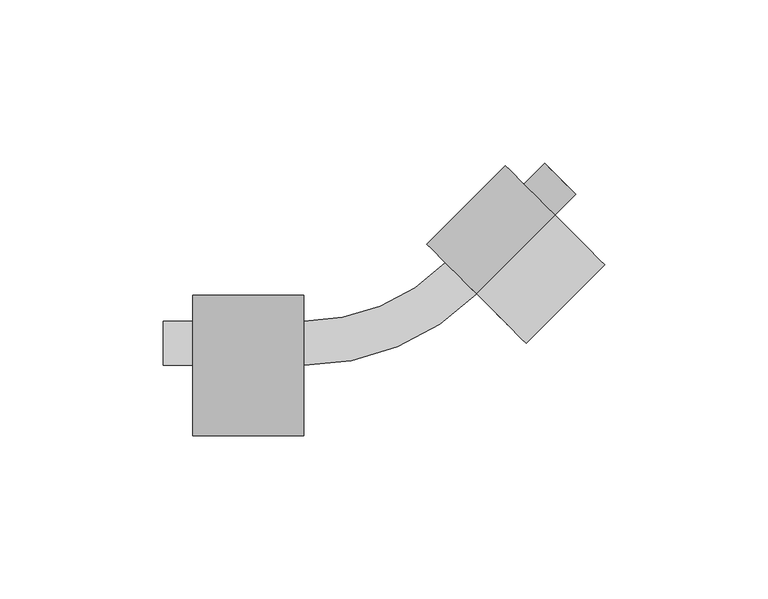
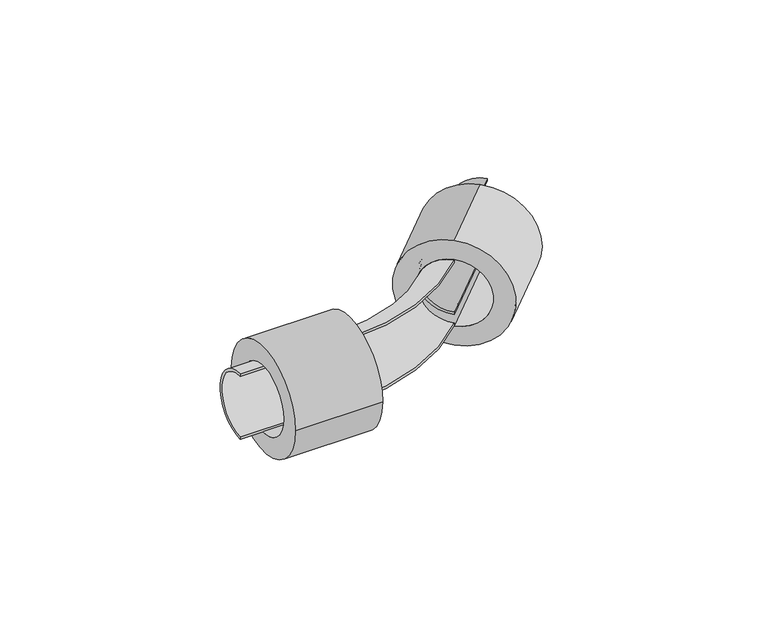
"""IFC4 building model written with IfcOpenShell, lengths in millimetres: pipe fitting geometry, REHAU_RAUTITAN_Pipe bend former sanitary : REHAU_RAUTITAN_Pipe bend former sanitary."""

from ifc_helpers import new_model, si_unit, point, frame, frame_2d, origin, origin_2d, place, context, project, spatial, polyline, circle_curve, ellipse_curve, trimmed, segment, composite_curve, outline, extrude, source, transform, mapped, element, save
from ifc_brep_helpers import plane_surface, cylinder_surface, revolved_surface, advanced_brep


def pipe_fitting_8df0c726(model_context):
    return source(origin(), model_context, "Body", "SolidModel", [
        advanced_brep(
        [(-31.0, 0.0, 13.5), (-31.0, 0.0, -13.5), (-31.0, 0.0, -12.5), (-31.0, 0.0, 12.5), (21.9203102, 21.9203102, 13.5), (21.9203102, 21.9203102, 12.5), (21.9203102, 21.9203102, -12.5), (21.9203102, 21.9203102, -13.5)],
        [
            (0, 1, circle_curve(frame((-31.0, 0.0, 0.0), z_axis=(-1.0, 0.0, 0.0), x_axis=(0.0, 1.0, 0.0)), 13.5)),
            (1, 2),
            (2, 3, circle_curve(frame((-31.0, 0.0, 0.0), z_axis=(1.0, 0.0, 0.0), x_axis=(0.0, 1.0, 0.0)), 12.5)),
            (3, 0),
            (4, 5),
            (5, 6, circle_curve(frame((21.9203102, 21.9203102, 0.0), z_axis=(-0.7071067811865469, -0.7071067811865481, 0.0), x_axis=(-0.7071067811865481, 0.7071067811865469, 0.0)), 12.5)),
            (6, 7),
            (7, 4, circle_curve(frame((21.9203102, 21.9203102, 0.0), z_axis=(0.7071067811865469, 0.7071067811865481, 0.0), x_axis=(-0.7071067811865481, 0.7071067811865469, 0.0)), 13.5)),
            (4, 0, circle_curve(frame((-31.0, 74.8406204, 13.5), z_axis=(0.0, 0.0, -1.0), x_axis=(0.0, -1.0, 0.0)), 74.8406204)),
            (3, 5, circle_curve(frame((-31.0, 74.8406204, 12.5), z_axis=(0.0, 0.0, 1.0), x_axis=(0.0, -1.0, 0.0)), 74.8406204)),
            (6, 2, circle_curve(frame((-31.0, 74.8406204, -12.5), z_axis=(0.0, 0.0, -1.0), x_axis=(0.0, -1.0, 0.0)), 74.8406204)),
            (1, 7, circle_curve(frame((-31.0, 74.8406204, -13.5), z_axis=(0.0, 0.0, 1.0), x_axis=(0.0, -1.0, 0.0)), 74.8406204)),
        ],
        [
            plane_surface(frame((-31.0, 0.0, 0.0), z_axis=(-1.0, 0.0, 0.0), x_axis=(0.0, 0.0, 1.0))),
            plane_surface(frame((21.9203102, 21.9203102, 0.0), z_axis=(0.7071067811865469, 0.7071067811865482, 0.0), x_axis=(0.0, 0.0, 1.0))),
            cylinder_surface(frame((-31.0, 74.8406204, 0.0), z_axis=(0.0, 0.0, 1.0), x_axis=(0.0, -1.0, 0.0)), 74.8406204),
            revolved_surface(trimmed(ellipse_curve(frame((-31.0, 0.0, 0.0), z_axis=(-1.0, 0.0, 0.0), x_axis=(0.0, 1.0, 0.0)), 13.5, 13.5), [point((-31.0, 0.0, 13.5))], [point((-31.0, 0.0, -13.5))], True, "CARTESIAN"), (-31.0, 74.8406204, 0.0), (0.0, 0.0, 1.0)),
            revolved_surface(trimmed(ellipse_curve(frame((-31.0, 0.0, 0.0), z_axis=(1.0, 0.0, 0.0), x_axis=(0.0, 1.0, 0.0)), 12.5, 12.5), [point((-31.0, 0.0, -12.5))], [point((-31.0, 0.0, 12.5))], True, "CARTESIAN"), (-31.0, 74.8406204, 0.0), (0.0, 0.0, 1.0)),
        ],
        [
            (0, [[1, 2, 3, 4]]),
            (1, [[5, 6, 7, 8]]),
            (2, [[9, -4, 10, -5]]),
            (2, [[11, -2, 12, -7]]),
            (3, [[-12, -1, -9, -8]]),
            (4, [[-10, -3, -11, -6]]),
        ],
    ),
        extrude(outline(composite_curve([segment(trimmed(circle_curve(origin_2d(), 21.5), [point((21.5, 0.0))], [point((-21.5, 0.0))], False, "CARTESIAN"), True, "CONTINUOUS"), segment(trimmed(circle_curve(origin_2d(), 21.5), [point((-21.5, 0.0))], [point((21.5, 0.0))], False, "CARTESIAN"), True, "CONTINUOUS")], self_intersect=False), holes=[composite_curve([segment(trimmed(circle_curve(origin_2d(), 13.65), [point((13.65, 0.0))], [point((-13.65, 0.0))], True, "CARTESIAN"), True, "CONTINUOUS"), segment(trimmed(circle_curve(origin_2d(), 13.65), [point((-13.65, 0.0))], [point((13.65, 0.0))], True, "CARTESIAN"), True, "CONTINUOUS")], self_intersect=False)]), frame((-65.0, 0.0, 0.0), z_axis=(1.0, 0.0, 0.0), x_axis=(0.0, 1.0, 0.0)), (0.0, 0.0, 1.0), 34.0),
        extrude(outline(composite_curve([segment(trimmed(circle_curve(frame_2d((0.0, -21.5)), 21.5), [point((0.0, -43.0))], [point((0.0, 0.0))], False, "CARTESIAN"), True, "CONTINUOUS"), segment(trimmed(circle_curve(frame_2d((0.0, -21.5)), 21.5), [point((0.0, 0.0))], [point((0.0, -43.0))], False, "CARTESIAN"), True, "CONTINUOUS")], self_intersect=False), holes=[composite_curve([segment(trimmed(circle_curve(frame_2d((0.0, -21.5)), 13.65), [point((0.0, -35.15))], [point((0.0, -7.85))], True, "CARTESIAN"), True, "CONTINUOUS"), segment(trimmed(circle_curve(frame_2d((0.0, -21.5)), 13.65), [point((0.0, -7.85))], [point((0.0, -35.15))], True, "CARTESIAN"), True, "CONTINUOUS")], self_intersect=False)]), frame((21.9203102, 21.9203102, 21.5), z_axis=(0.7071067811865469, 0.7071067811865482, 0.0), x_axis=(-0.7071067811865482, 0.7071067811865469, 0.0)), (0.0, 0.0, 1.0), 34.0),
        extrude(outline(composite_curve([segment(polyline([(0.0, 12.5), (0.0, 13.5)]), True, "CONTINUOUS"), segment(trimmed(circle_curve(origin_2d(), 13.5), [point((0.0, 13.5))], [point((0.0, -13.5))], False, "CARTESIAN"), True, "CONTINUOUS"), segment(polyline([(0.0, -13.5), (0.0, -12.5)]), True, "CONTINUOUS"), segment(trimmed(circle_curve(origin_2d(), 12.5), [point((0.0, -12.5))], [point((0.0, 12.5))], True, "CARTESIAN"), True, "CONTINUOUS")], self_intersect=False)), frame((-74.0, 0.0, 0.0), z_axis=(1.0, 0.0, 0.0), x_axis=(0.0, 1.0, 0.0)), (0.0, 0.0, 1.0), 43.0),
        extrude(outline(composite_curve([segment(polyline([(0.0, 0.0), (0.0, -1.0)]), True, "CONTINUOUS"), segment(trimmed(circle_curve(frame_2d((0.0, 12.5)), 13.5), [point((0.0, -1.0))], [point((0.0, 26.0))], False, "CARTESIAN"), True, "CONTINUOUS"), segment(polyline([(0.0, 26.0), (0.0, 25.0)]), True, "CONTINUOUS"), segment(trimmed(circle_curve(frame_2d((0.0, 12.5)), 12.5), [point((0.0, 25.0))], [point((0.0, 0.0))], True, "CARTESIAN"), True, "CONTINUOUS")], self_intersect=False)), frame((21.9203102, 21.9203102, 17.0015807), z_axis=(0.7071067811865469, 0.7071067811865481, 0.0), x_axis=(0.7071067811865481, -0.7071067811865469, 0.0)), (0.0, 0.0, 1.0), 43.0),
    ])


if __name__ == "__main__":
    model = new_model("IFC4")
    model_context = context("Model", 3, world=origin())
    ifc_project = project(units=[si_unit("LENGTHUNIT", "METRE", prefix="MILLI")], contexts=[model_context])
    site = spatial("IfcSite", under=ifc_project)
    building = spatial("IfcBuilding", under=site)
    placement = place(None, origin())
    pipe_fitting_shape = pipe_fitting_8df0c726(model_context)
    element("IfcPipeFitting", 1, ObjectType="REHAU_RAUTITAN_Pipe bend former sanitary : REHAU_RAUTITAN_Pipe bend former sanitary", at=placement, inside=building, context=model_context, shape_type="MappedRepresentation", body=[
        mapped(pipe_fitting_shape, transform((0.0, 0.0, 0.0), x_axis=(1.0, 0.0, 0.0), y_axis=(0.0, 1.0, 0.0), z_axis=(0.0, 0.0, 1.0))),
    ])
    save(model, "model.ifc")
